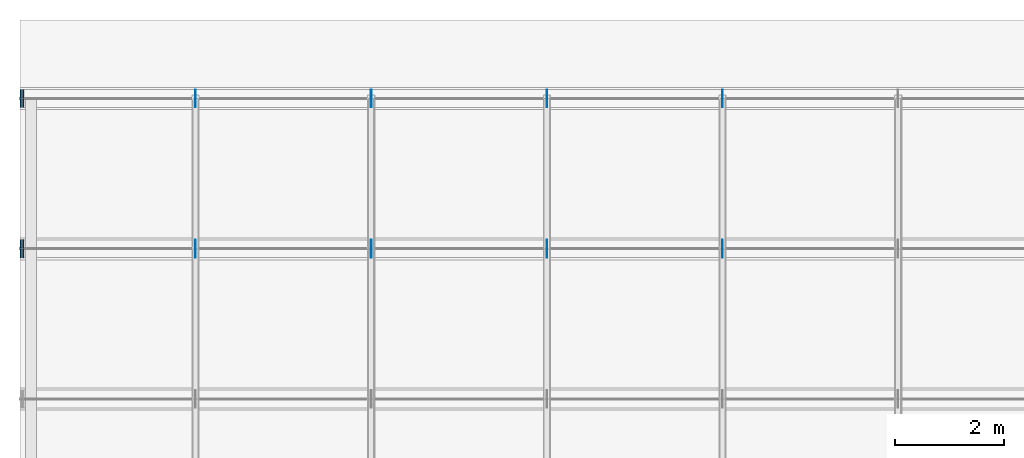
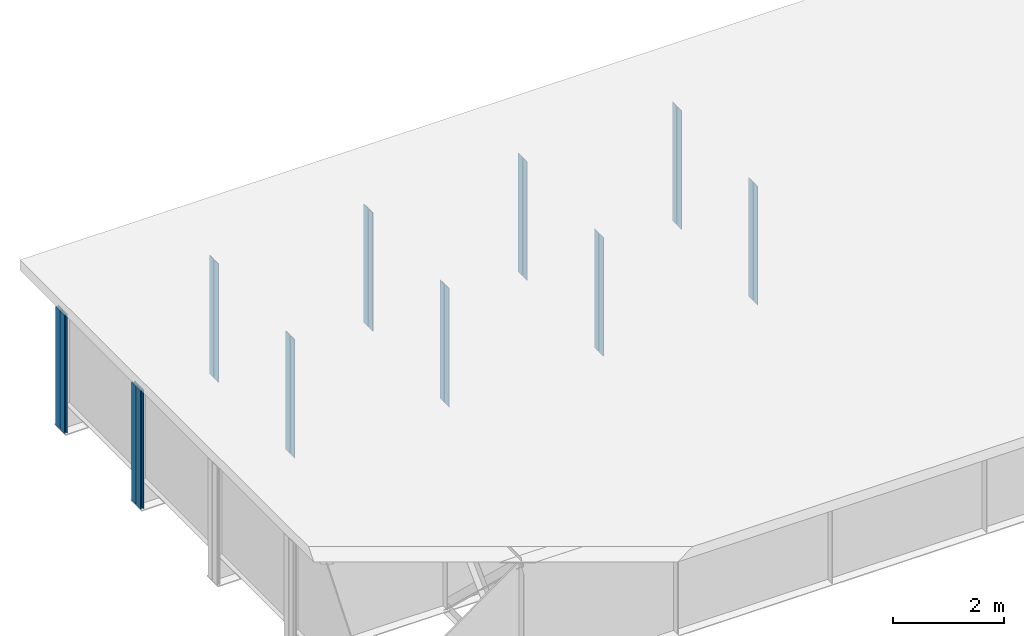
# One storey, part 4 of 20: 24 plates.
"""IFC4 building model written with IfcOpenShell, lengths in metres."""

from ifc_helpers import new_model, si_unit, frame, origin, origin_with_axes, origin_2d_with_axis, place, context, subcontext, project, spatial, rectangle, extrude, element, save


model = new_model("IFC4")

# Units and contexts
model_context = context("Model", 3, precision=1e-05, world=origin())
body_context = subcontext(model_context, "Body", "Model", "MODEL_VIEW")
ifc_project = project(units=[si_unit("LENGTHUNIT", "METRE"), si_unit("AREAUNIT", "SQUARE_METRE"), si_unit("VOLUMEUNIT", "CUBIC_METRE"), si_unit("PLANEANGLEUNIT", "RADIAN")], contexts=[model_context])

# Site, building, storey
site_placement = place(None, origin_with_axes())
site = spatial("IfcSite", under=ifc_project, at=site_placement, Name="Default Site")
building_placement = place(site_placement, origin_with_axes())
building = spatial("IfcBuilding", under=site, at=building_placement, Name="Bridge Structure")
storey_placement = place(building_placement, origin_with_axes())
storey = spatial("IfcBuildingStorey", under=building, at=storey_placement, Name="Superstructure")

# Plates
for number, where, z_axis, x_axis, name in (
    (1, (3.214, 2.83575, -1.307), (0.0, 0.0, 1.0), (1.0, 0.0, 0.0), "Intermediate Stiffener 4"),
    (2, (3.214, 2.66425, -1.307), (0.0, 0.0, 1.0), (1.0, 0.0, 0.0), "Intermediate Stiffener 4"),
    (3, (6.428, 2.83575, -1.307), (0.0, 0.0, 1.0), (1.0, 0.0, 0.0), "Intermediate Stiffener 4"),
    (4, (6.428, 2.66425, -1.307), (0.0, 0.0, 1.0), (1.0, 0.0, 0.0), "Intermediate Stiffener 4"),
    (5, (9.642, 2.83575, -1.307), (0.0, 0.0, 1.0), (1.0, 0.0, 0.0), "Intermediate Stiffener 4"),
    (6, (9.642, 2.66425, -1.307), (0.0, 0.0, 1.0), (1.0, 0.0, 0.0), "Intermediate Stiffener 4"),
    (7, (12.856, 2.83575, -1.307), (0.0, 0.0, 1.0), (1.0, 0.0, 0.0), "Intermediate Stiffener 4"),
    (8, (12.856, 2.66425, -1.307), (0.0, 0.0, 1.0), (1.0, 0.0, 0.0), "Intermediate Stiffener 4"),
):
    element("IfcPlate", number, at=place(storey_placement, frame(where, z_axis=z_axis, x_axis=x_axis)), inside=storey, Name=name, context=body_context, shape_type="SweptSolid", body=[
        extrude(rectangle(XDim=0.012, YDim=0.1535, at=origin_2d_with_axis()), origin_with_axes(), (0.0, 0.0, 1.0), 2.614),
    ])
for number, where, z_axis, x_axis, name in (
    (9, (0.01, 2.83575, -1.307), (0.0, 0.0, 1.0), (1.0, 0.0, 0.0), "End Stiffener 4"),
    (10, (0.01, 2.66425, -1.307), (0.0, 0.0, 1.0), (1.0, 0.0, 0.0), "End Stiffener 4"),
    (11, (0.06, 2.83575, -1.307), (0.0, 0.0, 1.0), (1.0, 0.0, 0.0), "End Stiffener 4"),
    (12, (0.06, 2.66425, -1.307), (0.0, 0.0, 1.0), (1.0, 0.0, 0.0), "End Stiffener 4"),
):
    element("IfcPlate", number, at=place(storey_placement, frame(where, z_axis=z_axis, x_axis=x_axis)), inside=storey, Name=name, context=body_context, shape_type="SweptSolid", body=[
        extrude(rectangle(XDim=0.02, YDim=0.1535, at=origin_2d_with_axis()), origin_with_axes(), (0.0, 0.0, 1.0), 2.614),
    ])
for number, where, z_axis, x_axis, name in (
    (13, (3.214, 5.58575, -1.307), (0.0, 0.0, 1.0), (1.0, 0.0, 0.0), "Intermediate Stiffener 5"),
    (14, (3.214, 5.41425, -1.307), (0.0, 0.0, 1.0), (1.0, 0.0, 0.0), "Intermediate Stiffener 5"),
    (15, (6.428, 5.58575, -1.307), (0.0, 0.0, 1.0), (1.0, 0.0, 0.0), "Intermediate Stiffener 5"),
    (16, (6.428, 5.41425, -1.307), (0.0, 0.0, 1.0), (1.0, 0.0, 0.0), "Intermediate Stiffener 5"),
    (17, (9.642, 5.58575, -1.307), (0.0, 0.0, 1.0), (1.0, 0.0, 0.0), "Intermediate Stiffener 5"),
    (18, (9.642, 5.41425, -1.307), (0.0, 0.0, 1.0), (1.0, 0.0, 0.0), "Intermediate Stiffener 5"),
    (19, (12.856, 5.58575, -1.307), (0.0, 0.0, 1.0), (1.0, 0.0, 0.0), "Intermediate Stiffener 5"),
    (20, (12.856, 5.41425, -1.307), (0.0, 0.0, 1.0), (1.0, 0.0, 0.0), "Intermediate Stiffener 5"),
):
    element("IfcPlate", number, at=place(storey_placement, frame(where, z_axis=z_axis, x_axis=x_axis)), inside=storey, Name=name, context=body_context, shape_type="SweptSolid", body=[
        extrude(rectangle(XDim=0.012, YDim=0.1535, at=origin_2d_with_axis()), origin_with_axes(), (0.0, 0.0, 1.0), 2.614),
    ])
for number, where, z_axis, x_axis, name in (
    (21, (0.01, 5.58575, -1.307), (0.0, 0.0, 1.0), (1.0, 0.0, 0.0), "End Stiffener 5"),
    (22, (0.01, 5.41425, -1.307), (0.0, 0.0, 1.0), (1.0, 0.0, 0.0), "End Stiffener 5"),
    (23, (0.06, 5.58575, -1.307), (0.0, 0.0, 1.0), (1.0, 0.0, 0.0), "End Stiffener 5"),
    (24, (0.06, 5.41425, -1.307), (0.0, 0.0, 1.0), (1.0, 0.0, 0.0), "End Stiffener 5"),
):
    element("IfcPlate", number, at=place(storey_placement, frame(where, z_axis=z_axis, x_axis=x_axis)), inside=storey, Name=name, context=body_context, shape_type="SweptSolid", body=[
        extrude(rectangle(XDim=0.02, YDim=0.1535, at=origin_2d_with_axis()), origin_with_axes(), (0.0, 0.0, 1.0), 2.614),
    ])

save(model, "model.ifc")
